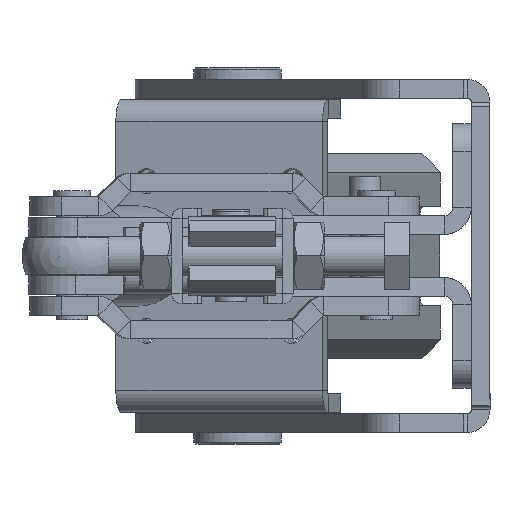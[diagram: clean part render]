
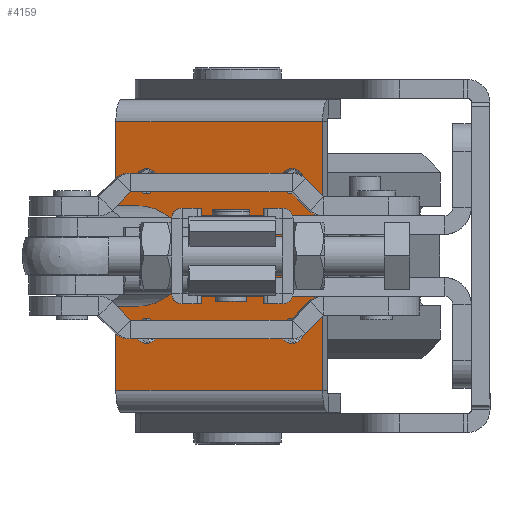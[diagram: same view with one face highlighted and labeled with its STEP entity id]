
A CAD part, left-side view. The second image highlights one B-rep face of the part: STEP entity #4159.
In plain terms, the highlighted planar face has unit normal (-0.971, 0.238, 0) as drawn and (0, -1, 0) by its records, which use the part's own axes.
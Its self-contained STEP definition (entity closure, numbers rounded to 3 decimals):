
#418 = ORIENTED_EDGE ( 'NONE', *, *, #8046, .F. ) ;
#433 = CARTESIAN_POINT ( 'NONE',  ( -19., -4.75, -19. ) ) ;
#533 = CARTESIAN_POINT ( 'NONE',  ( 0., -4.75, 0. ) ) ;
#627 = VERTEX_POINT ( 'NONE', #17569 ) ;
#674 = CARTESIAN_POINT ( 'NONE',  ( 19., -4.75, 22.15 ) ) ;
#677 = DIRECTION ( 'NONE',  ( 1., 0., 0. ) ) ;
#724 = FACE_BOUND ( 'NONE', #6448, .T. ) ;
#990 = VERTEX_POINT ( 'NONE', #4053 ) ;
#1013 = AXIS2_PLACEMENT_3D ( 'NONE', #10586, #1717, #12112 ) ;
#1116 = ORIENTED_EDGE ( 'NONE', *, *, #4819, .T. ) ;
#1293 = DIRECTION ( 'NONE',  ( 0., 1., 0. ) ) ;
#1378 = DIRECTION ( 'NONE',  ( 0., 0., -1. ) ) ;
#1523 = CARTESIAN_POINT ( 'NONE',  ( 19., -4.75, -15.85 ) ) ;
#1561 = DIRECTION ( 'NONE',  ( 0., 1., 0. ) ) ;
#1683 = EDGE_CURVE ( 'NONE', #11580, #3930, #10787, .T. ) ;
#1717 = DIRECTION ( 'NONE',  ( 0., 1., 0. ) ) ;
#1932 = DIRECTION ( 'NONE',  ( 0., 0., 1. ) ) ;
#2026 = DIRECTION ( 'NONE',  ( 0., 0., 1. ) ) ;
#2359 = DIRECTION ( 'NONE',  ( 0., 1., 0. ) ) ;
#2705 = EDGE_CURVE ( 'NONE', #4511, #16044, #9800, .T. ) ;
#2838 = CARTESIAN_POINT ( 'NONE',  ( 19., -4.75, -19. ) ) ;
#2852 = ORIENTED_EDGE ( 'NONE', *, *, #6178, .F. ) ;
#2951 = EDGE_CURVE ( 'NONE', #17268, #7597, #14449, .T. ) ;
#3081 = EDGE_LOOP ( 'NONE', ( #18386, #1116 ) ) ;
#3187 = DIRECTION ( 'NONE',  ( 0., 1., 0. ) ) ;
#3737 = LINE ( 'NONE', #11555, #14166 ) ;
#3756 = FACE_OUTER_BOUND ( 'NONE', #5837, .T. ) ;
#3849 = CARTESIAN_POINT ( 'NONE',  ( 0., -4.75, -10. ) ) ;
#3930 = VERTEX_POINT ( 'NONE', #4544 ) ;
#4053 = CARTESIAN_POINT ( 'NONE',  ( -19., -4.75, -22.15 ) ) ;
#4159 = ADVANCED_FACE ( 'NONE', ( #3756, #7213, #16050, #724, #11164, #19048 ), #5971, .F. ) ;
#4242 = CARTESIAN_POINT ( 'NONE',  ( -19., -4.75, 15.85 ) ) ;
#4280 = EDGE_LOOP ( 'NONE', ( #6506, #11214 ) ) ;
#4341 = DIRECTION ( 'NONE',  ( 0., 0., -1. ) ) ;
#4511 = VERTEX_POINT ( 'NONE', #3849 ) ;
#4544 = CARTESIAN_POINT ( 'NONE',  ( 19., -4.75, -22.15 ) ) ;
#4677 = EDGE_CURVE ( 'NONE', #627, #10490, #3737, .T. ) ;
#4765 = AXIS2_PLACEMENT_3D ( 'NONE', #7366, #17767, #8870 ) ;
#4776 = VERTEX_POINT ( 'NONE', #17641 ) ;
#4819 = EDGE_CURVE ( 'NONE', #3930, #11580, #8346, .T. ) ;
#4859 = AXIS2_PLACEMENT_3D ( 'NONE', #533, #10908, #2026 ) ;
#4887 = CARTESIAN_POINT ( 'NONE',  ( 19., -4.75, 19. ) ) ;
#4891 = CIRCLE ( 'NONE', #8337, 3.15 ) ;
#4996 = VERTEX_POINT ( 'NONE', #12051 ) ;
#5278 = EDGE_CURVE ( 'NONE', #7597, #17268, #13039, .T. ) ;
#5708 = DIRECTION ( 'NONE',  ( -1., 0., 0. ) ) ;
#5837 = EDGE_LOOP ( 'NONE', ( #2852, #418, #8834, #16566 ) ) ;
#5891 = VERTEX_POINT ( 'NONE', #8803 ) ;
#5971 = PLANE ( 'NONE',  #6408 ) ;
#6068 = AXIS2_PLACEMENT_3D ( 'NONE', #2838, #13221, #4341 ) ;
#6178 = EDGE_CURVE ( 'NONE', #5891, #627, #10410, .T. ) ;
#6385 = DIRECTION ( 'NONE',  ( 0., 0., 1. ) ) ;
#6408 = AXIS2_PLACEMENT_3D ( 'NONE', #17852, #1561, #11963 ) ;
#6448 = EDGE_LOOP ( 'NONE', ( #9059, #17539 ) ) ;
#6506 = ORIENTED_EDGE ( 'NONE', *, *, #2951, .T. ) ;
#6954 = ORIENTED_EDGE ( 'NONE', *, *, #7497, .T. ) ;
#7213 = FACE_BOUND ( 'NONE', #9424, .T. ) ;
#7366 = CARTESIAN_POINT ( 'NONE',  ( 19., -4.75, -19. ) ) ;
#7497 = EDGE_CURVE ( 'NONE', #14974, #4776, #4891, .T. ) ;
#7579 = LINE ( 'NONE', #16393, #18947 ) ;
#7597 = VERTEX_POINT ( 'NONE', #10448 ) ;
#7628 = EDGE_CURVE ( 'NONE', #4776, #14974, #14405, .T. ) ;
#8009 = ORIENTED_EDGE ( 'NONE', *, *, #7628, .T. ) ;
#8032 = CIRCLE ( 'NONE', #4859, 10. ) ;
#8046 = EDGE_CURVE ( 'NONE', #4996, #5891, #11362, .T. ) ;
#8071 = CARTESIAN_POINT ( 'NONE',  ( 0., -4.75, 10. ) ) ;
#8337 = AXIS2_PLACEMENT_3D ( 'NONE', #19165, #10263, #1378 ) ;
#8346 = CIRCLE ( 'NONE', #6068, 3.15 ) ;
#8803 = CARTESIAN_POINT ( 'NONE',  ( 34., -4.75, 27. ) ) ;
#8834 = ORIENTED_EDGE ( 'NONE', *, *, #18297, .T. ) ;
#8870 = DIRECTION ( 'NONE',  ( 0., 0., -1. ) ) ;
#8992 = DIRECTION ( 'NONE',  ( 0., 0., -1. ) ) ;
#9059 = ORIENTED_EDGE ( 'NONE', *, *, #11118, .T. ) ;
#9424 = EDGE_LOOP ( 'NONE', ( #15804, #18033 ) ) ;
#9800 = CIRCLE ( 'NONE', #11615, 10. ) ;
#9854 = EDGE_CURVE ( 'NONE', #10211, #990, #11553, .T. ) ;
#10155 = CARTESIAN_POINT ( 'NONE',  ( -19., -4.75, -19. ) ) ;
#10211 = VERTEX_POINT ( 'NONE', #12004 ) ;
#10263 = DIRECTION ( 'NONE',  ( 0., 1., 0. ) ) ;
#10410 = LINE ( 'NONE', #12458, #13925 ) ;
#10448 = CARTESIAN_POINT ( 'NONE',  ( 19., -4.75, 15.85 ) ) ;
#10490 = VERTEX_POINT ( 'NONE', #14071 ) ;
#10586 = CARTESIAN_POINT ( 'NONE',  ( -19., -4.75, 19. ) ) ;
#10787 = CIRCLE ( 'NONE', #4765, 3.15 ) ;
#10822 = DIRECTION ( 'NONE',  ( 0., 1., 0. ) ) ;
#10908 = DIRECTION ( 'NONE',  ( 0., 1., 0. ) ) ;
#11118 = EDGE_CURVE ( 'NONE', #16044, #4511, #8032, .T. ) ;
#11164 = FACE_BOUND ( 'NONE', #4280, .T. ) ;
#11214 = ORIENTED_EDGE ( 'NONE', *, *, #5278, .T. ) ;
#11253 = CARTESIAN_POINT ( 'NONE',  ( 19., -4.75, 19. ) ) ;
#11362 = LINE ( 'NONE', #18468, #18787 ) ;
#11553 = CIRCLE ( 'NONE', #13680, 3.15 ) ;
#11555 = CARTESIAN_POINT ( 'NONE',  ( 52.617, -4.75, -27. ) ) ;
#11580 = VERTEX_POINT ( 'NONE', #1523 ) ;
#11604 = AXIS2_PLACEMENT_3D ( 'NONE', #10155, #1293, #11679 ) ;
#11615 = AXIS2_PLACEMENT_3D ( 'NONE', #12076, #3187, #13565 ) ;
#11679 = DIRECTION ( 'NONE',  ( 0., 0., 1. ) ) ;
#11963 = DIRECTION ( 'NONE',  ( 0., 0., 1. ) ) ;
#12004 = CARTESIAN_POINT ( 'NONE',  ( -19., -4.75, -15.85 ) ) ;
#12051 = CARTESIAN_POINT ( 'NONE',  ( -34., -4.75, 27. ) ) ;
#12076 = CARTESIAN_POINT ( 'NONE',  ( 0., -4.75, 0. ) ) ;
#12112 = DIRECTION ( 'NONE',  ( 0., 0., -1. ) ) ;
#12458 = CARTESIAN_POINT ( 'NONE',  ( 34., -4.75, -24. ) ) ;
#12748 = DIRECTION ( 'NONE',  ( 0., 0., 1. ) ) ;
#12777 = EDGE_CURVE ( 'NONE', #990, #10211, #18433, .T. ) ;
#13039 = CIRCLE ( 'NONE', #15671, 3.15 ) ;
#13221 = DIRECTION ( 'NONE',  ( 0., 1., 0. ) ) ;
#13565 = DIRECTION ( 'NONE',  ( 0., 0., 1. ) ) ;
#13680 = AXIS2_PLACEMENT_3D ( 'NONE', #433, #10822, #1932 ) ;
#13925 = VECTOR ( 'NONE', #18393, 1000. ) ;
#14071 = CARTESIAN_POINT ( 'NONE',  ( -34., -4.75, -27. ) ) ;
#14166 = VECTOR ( 'NONE', #5708, 1000. ) ;
#14405 = CIRCLE ( 'NONE', #1013, 3.15 ) ;
#14449 = CIRCLE ( 'NONE', #18205, 3.15 ) ;
#14974 = VERTEX_POINT ( 'NONE', #4242 ) ;
#15281 = DIRECTION ( 'NONE',  ( 0., 1., 0. ) ) ;
#15671 = AXIS2_PLACEMENT_3D ( 'NONE', #11253, #2359, #12748 ) ;
#15804 = ORIENTED_EDGE ( 'NONE', *, *, #9854, .T. ) ;
#16044 = VERTEX_POINT ( 'NONE', #8071 ) ;
#16050 = FACE_BOUND ( 'NONE', #3081, .T. ) ;
#16393 = CARTESIAN_POINT ( 'NONE',  ( -34., -4.75, -24. ) ) ;
#16566 = ORIENTED_EDGE ( 'NONE', *, *, #4677, .F. ) ;
#16858 = EDGE_LOOP ( 'NONE', ( #8009, #6954 ) ) ;
#17268 = VERTEX_POINT ( 'NONE', #674 ) ;
#17539 = ORIENTED_EDGE ( 'NONE', *, *, #2705, .T. ) ;
#17569 = CARTESIAN_POINT ( 'NONE',  ( 34., -4.75, -27. ) ) ;
#17641 = CARTESIAN_POINT ( 'NONE',  ( -19., -4.75, 22.15 ) ) ;
#17767 = DIRECTION ( 'NONE',  ( 0., 1., 0. ) ) ;
#17852 = CARTESIAN_POINT ( 'NONE',  ( 52.617, -4.75, -24. ) ) ;
#18033 = ORIENTED_EDGE ( 'NONE', *, *, #12777, .T. ) ;
#18205 = AXIS2_PLACEMENT_3D ( 'NONE', #4887, #15281, #6385 ) ;
#18297 = EDGE_CURVE ( 'NONE', #4996, #10490, #7579, .T. ) ;
#18386 = ORIENTED_EDGE ( 'NONE', *, *, #1683, .T. ) ;
#18393 = DIRECTION ( 'NONE',  ( 0., 0., -1. ) ) ;
#18433 = CIRCLE ( 'NONE', #11604, 3.15 ) ;
#18468 = CARTESIAN_POINT ( 'NONE',  ( -52.617, -4.75, 27. ) ) ;
#18787 = VECTOR ( 'NONE', #677, 1000. ) ;
#18947 = VECTOR ( 'NONE', #8992, 1000. ) ;
#19048 = FACE_BOUND ( 'NONE', #16858, .T. ) ;
#19165 = CARTESIAN_POINT ( 'NONE',  ( -19., -4.75, 19. ) ) ;
